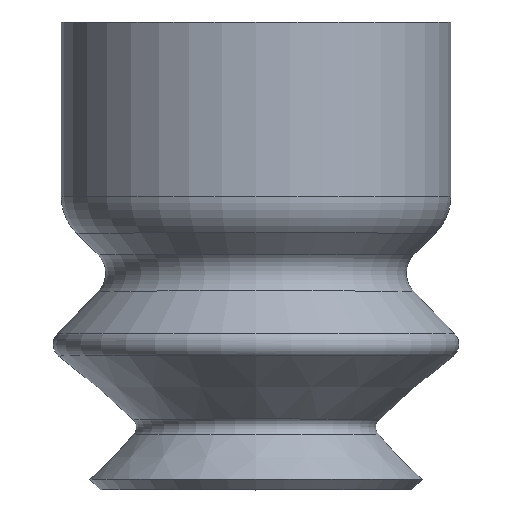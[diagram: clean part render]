
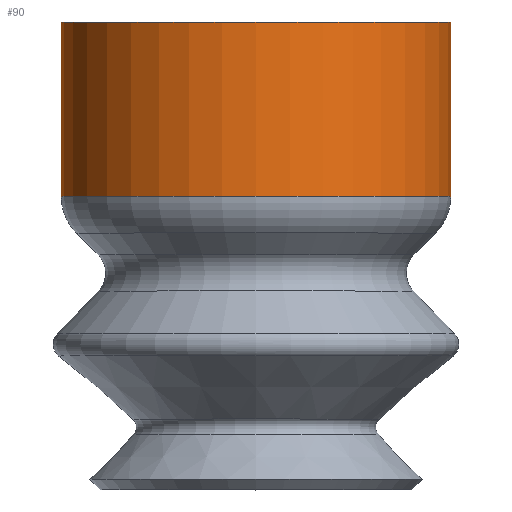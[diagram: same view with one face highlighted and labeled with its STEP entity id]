
A CAD part, top view. The second image highlights one B-rep face of the part: STEP entity #90.
In plain terms, the highlighted cylindrical face has radius 3.75 mm (diameter 7.5 mm), a full revolution.
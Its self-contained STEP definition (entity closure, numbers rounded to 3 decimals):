
#90=ADVANCED_FACE('',(#142,#143),#144,.T.);
#142=FACE_OUTER_BOUND('',#205,.T.);
#143=FACE_OUTER_BOUND('',#206,.T.);
#144=CYLINDRICAL_SURFACE('',#207,3.75);
#205=EDGE_LOOP('',(#298));
#206=EDGE_LOOP('',(#299));
#207=AXIS2_PLACEMENT_3D('',#300,#301,#302);
#298=ORIENTED_EDGE('',*,*,#337,.T.);
#299=ORIENTED_EDGE('',*,*,#348,.T.);
#300=CARTESIAN_POINT('',(0.0,0.0,0.0));
#301=DIRECTION('',(0.0,-1.0,0.));
#302=DIRECTION('',(0.0,0.,-1.0));
#337=EDGE_CURVE('',#367,#367,#368,.T.);
#348=EDGE_CURVE('',#389,#389,#390,.T.);
#367=VERTEX_POINT('',#409);
#368=CIRCLE('',#410,3.75);
#389=VERTEX_POINT('',#431);
#390=CIRCLE('',#432,3.75);
#409=CARTESIAN_POINT('',(0.0,11.613,3.75));
#410=AXIS2_PLACEMENT_3D('',#460,#461,#462);
#431=CARTESIAN_POINT('',(3.75,14.967,0.));
#432=AXIS2_PLACEMENT_3D('',#493,#494,#495);
#460=CARTESIAN_POINT('',(0.0,11.613,0.));
#461=DIRECTION('',(0.0,1.0,0.));
#462=DIRECTION('',(0.0,0.,1.0));
#493=CARTESIAN_POINT('',(0.0,14.967,0.));
#494=DIRECTION('',(0.0,-1.0,0.));
#495=DIRECTION('',(0.0,0.,-1.0));
